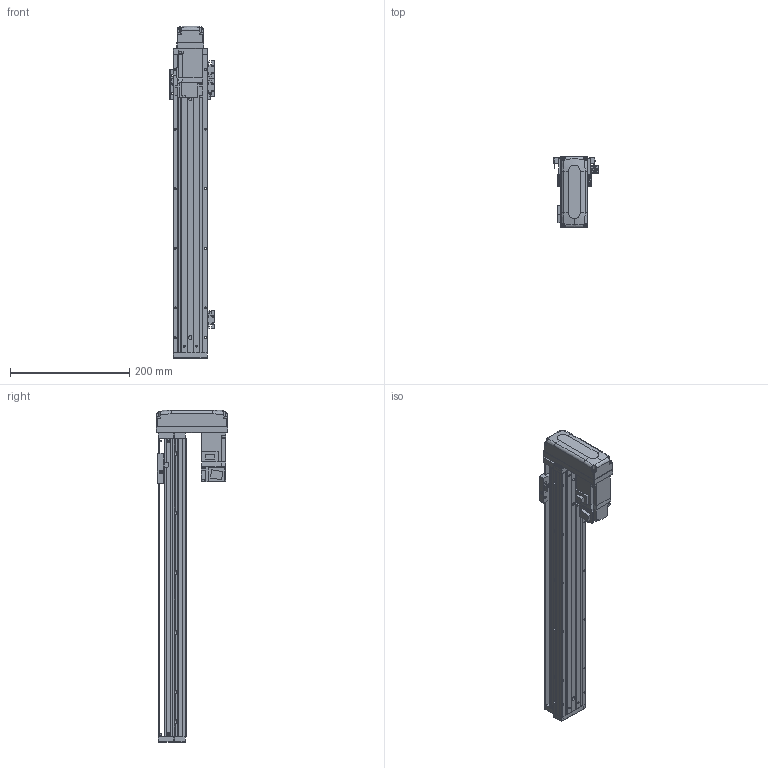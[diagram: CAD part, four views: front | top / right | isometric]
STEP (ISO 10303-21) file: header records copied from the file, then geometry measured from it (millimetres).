
FILE_DESCRIPTION (( 'STEP AP203' ), '1' );
FILE_NAME ('KTHA50-400-BM-M10-C4L.step', '2022-03-19T07:11:25', ( '微软用户' ), ( '微软中国' ), 'SwSTEP 2.0', 'SolidWorks 2020', '' );
FILE_SCHEMA (( 'CONFIG_CONTROL_DESIGN' ));
Length unit declared in the file: millimetre
Products named in the file (18): KTHA50-005; CTHA60-016; KTHA50-400-BM-M10-C4L; GB¨uT 70.2-M3¡Á6_M3¡Á6; CTHA60-021; EE_SX911P_R; GBT 70.3-M3℅6; GBT77-2000 M3×3; HG-KR13（三菱）; KTHA50-001_500; GBT 70.1-M3℅6; CTHA50-015-2_CTHA60-015-2; KTHA50-002; CTHA60-017; CTHA60-033; KTHA50-004; GBT 70.1-M4×12; GBT 70.1-M3×15
Assembly tree (53 placements, depth 2):
  KTHA50-400-BM-M10-C4L
    KTHA50-001_500
    KTHA50-002
    KTHA50-004
    KTHA50-005
    GB¨uT 70.2-M3¡Á6_M3¡Á6  x6
    EE_SX911P_R  x3
    GBT77-2000 M3×3  x6
    GBT 70.1-M3℅6  x6
    CTHA60-017  x3
    GBT 70.1-M4×12  x10
    CTHA60-016  x2
    CTHA60-021  x2
    GBT 70.3-M3℅6  x4
    HG-KR13（三菱）
    CTHA50-015-2_CTHA60-015-2
    CTHA60-033
    GBT 70.1-M3×15  x4
Bounding box: 75.22 x 120 x 557 mm (x, y, z)
Volume: 1185637.5 mm3; surface area: 291234.2 mm2
Topology: 56 solids, 56 shells, 2263 faces, 5351 edges, 3280 vertices
Faces by surface type: plane 1264, cylinder 550, cone 307, torus 100, bspline 26, sphere 16
Entity records: 38235 total; most frequent: CARTESIAN_POINT 7234, DIRECTION 5965, ORIENTED_EDGE 5714, EDGE_CURVE 2857, AXIS2_PLACEMENT_3D 2027, LINE 1911, VECTOR 1911, VERTEX_POINT 1794
